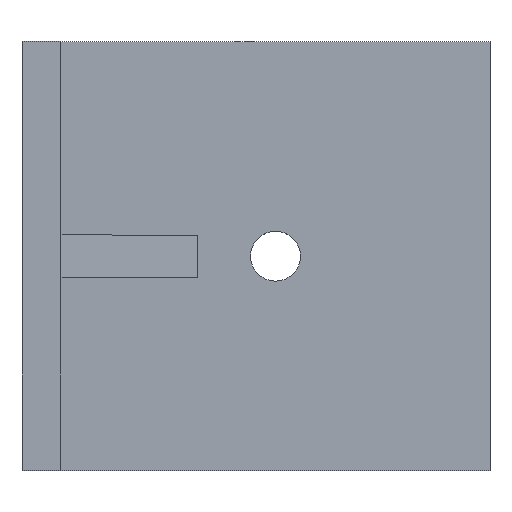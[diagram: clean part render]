
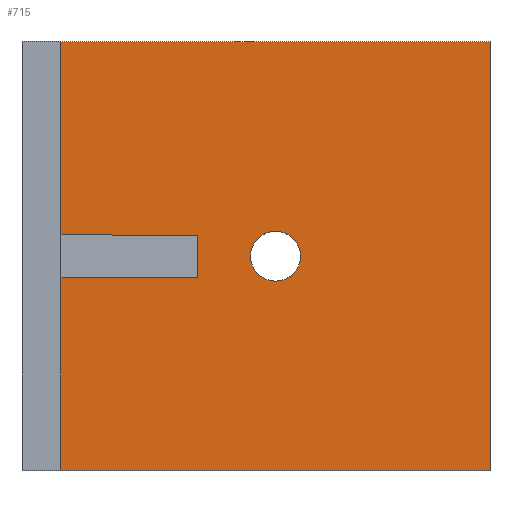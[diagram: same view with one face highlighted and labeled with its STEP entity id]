
A CAD part, top view. The second image highlights one B-rep face of the part: STEP entity #715.
In plain terms, the highlighted planar face has unit normal (0, 0, 1).
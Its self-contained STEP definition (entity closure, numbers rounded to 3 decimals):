
#44 = PLANE('',#45);
#45 = AXIS2_PLACEMENT_3D('',#46,#47,#48);
#46 = CARTESIAN_POINT('',(0.,-27.5,0.));
#47 = DIRECTION('',(0.,1.,0.));
#48 = DIRECTION('',(0.,0.,1.));
#100 = PLANE('',#101);
#101 = AXIS2_PLACEMENT_3D('',#102,#103,#104);
#102 = CARTESIAN_POINT('',(0.,27.5,0.));
#103 = DIRECTION('',(0.,1.,0.));
#104 = DIRECTION('',(0.,0.,1.));
#220 = VERTEX_POINT('',#221);
#221 = CARTESIAN_POINT('',(5.,-27.5,5.));
#235 = PLANE('',#236);
#236 = AXIS2_PLACEMENT_3D('',#237,#238,#239);
#237 = CARTESIAN_POINT('',(5.,-27.5,0.));
#238 = DIRECTION('',(1.,0.,0.));
#239 = DIRECTION('',(0.,0.,1.));
#247 = EDGE_CURVE('',#220,#248,#250,.T.);
#248 = VERTEX_POINT('',#249);
#249 = CARTESIAN_POINT('',(60.,-27.5,5.));
#250 = SURFACE_CURVE('',#251,(#255,#262),.PCURVE_S1.);
#251 = LINE('',#252,#253);
#252 = CARTESIAN_POINT('',(0.,-27.5,5.));
#253 = VECTOR('',#254,1.);
#254 = DIRECTION('',(1.,0.,0.));
#255 = PCURVE('',#44,#256);
#256 = DEFINITIONAL_REPRESENTATION('',(#257),#261);
#257 = LINE('',#258,#259);
#258 = CARTESIAN_POINT('',(5.,0.));
#259 = VECTOR('',#260,1.);
#260 = DIRECTION('',(0.,1.));
#261 = ( GEOMETRIC_REPRESENTATION_CONTEXT(2) 
PARAMETRIC_REPRESENTATION_CONTEXT() REPRESENTATION_CONTEXT('2D SPACE',''
  ) );
#262 = PCURVE('',#263,#268);
#263 = PLANE('',#264);
#264 = AXIS2_PLACEMENT_3D('',#265,#266,#267);
#265 = CARTESIAN_POINT('',(0.,-27.5,5.));
#266 = DIRECTION('',(0.,0.,1.));
#267 = DIRECTION('',(1.,0.,0.));
#268 = DEFINITIONAL_REPRESENTATION('',(#269),#273);
#269 = LINE('',#270,#271);
#270 = CARTESIAN_POINT('',(0.,0.));
#271 = VECTOR('',#272,1.);
#272 = DIRECTION('',(1.,0.));
#273 = ( GEOMETRIC_REPRESENTATION_CONTEXT(2) 
PARAMETRIC_REPRESENTATION_CONTEXT() REPRESENTATION_CONTEXT('2D SPACE',''
  ) );
#289 = PLANE('',#290);
#290 = AXIS2_PLACEMENT_3D('',#291,#292,#293);
#291 = CARTESIAN_POINT('',(60.,-27.5,0.));
#292 = DIRECTION('',(1.,0.,0.));
#293 = DIRECTION('',(0.,0.,1.));
#373 = CYLINDRICAL_SURFACE('',#374,3.2);
#374 = AXIS2_PLACEMENT_3D('',#375,#376,#377);
#375 = CARTESIAN_POINT('',(32.5,0.,5.));
#376 = DIRECTION('',(0.,0.,-1.));
#377 = DIRECTION('',(-1.,0.,0.));
#413 = VERTEX_POINT('',#414);
#414 = CARTESIAN_POINT('',(5.,27.5,5.));
#435 = EDGE_CURVE('',#413,#436,#438,.T.);
#436 = VERTEX_POINT('',#437);
#437 = CARTESIAN_POINT('',(60.,27.5,5.));
#438 = SURFACE_CURVE('',#439,(#443,#450),.PCURVE_S1.);
#439 = LINE('',#440,#441);
#440 = CARTESIAN_POINT('',(0.,27.5,5.));
#441 = VECTOR('',#442,1.);
#442 = DIRECTION('',(1.,0.,0.));
#443 = PCURVE('',#100,#444);
#444 = DEFINITIONAL_REPRESENTATION('',(#445),#449);
#445 = LINE('',#446,#447);
#446 = CARTESIAN_POINT('',(5.,0.));
#447 = VECTOR('',#448,1.);
#448 = DIRECTION('',(0.,1.));
#449 = ( GEOMETRIC_REPRESENTATION_CONTEXT(2) 
PARAMETRIC_REPRESENTATION_CONTEXT() REPRESENTATION_CONTEXT('2D SPACE',''
  ) );
#450 = PCURVE('',#263,#451);
#451 = DEFINITIONAL_REPRESENTATION('',(#452),#456);
#452 = LINE('',#453,#454);
#453 = CARTESIAN_POINT('',(0.,55.));
#454 = VECTOR('',#455,1.);
#455 = DIRECTION('',(1.,0.));
#456 = ( GEOMETRIC_REPRESENTATION_CONTEXT(2) 
PARAMETRIC_REPRESENTATION_CONTEXT() REPRESENTATION_CONTEXT('2D SPACE',''
  ) );
#618 = EDGE_CURVE('',#220,#619,#621,.T.);
#619 = VERTEX_POINT('',#620);
#620 = CARTESIAN_POINT('',(5.,-2.7,5.));
#621 = SURFACE_CURVE('',#622,(#626,#632),.PCURVE_S1.);
#622 = LINE('',#623,#624);
#623 = CARTESIAN_POINT('',(5.,-27.5,5.));
#624 = VECTOR('',#625,1.);
#625 = DIRECTION('',(0.,1.,0.));
#626 = PCURVE('',#235,#627);
#627 = DEFINITIONAL_REPRESENTATION('',(#628),#631);
#628 = B_SPLINE_CURVE_WITH_KNOTS('',1,(#629,#630),.UNSPECIFIED.,.F.,.F.,
  (2,2),(0.,55.),.PIECEWISE_BEZIER_KNOTS.);
#629 = CARTESIAN_POINT('',(5.,0.));
#630 = CARTESIAN_POINT('',(5.,-55.));
#631 = ( GEOMETRIC_REPRESENTATION_CONTEXT(2) 
PARAMETRIC_REPRESENTATION_CONTEXT() REPRESENTATION_CONTEXT('2D SPACE',''
  ) );
#632 = PCURVE('',#263,#633);
#633 = DEFINITIONAL_REPRESENTATION('',(#634),#637);
#634 = B_SPLINE_CURVE_WITH_KNOTS('',1,(#635,#636),.UNSPECIFIED.,.F.,.F.,
  (2,2),(0.,55.),.PIECEWISE_BEZIER_KNOTS.);
#635 = CARTESIAN_POINT('',(5.,0.));
#636 = CARTESIAN_POINT('',(5.,55.));
#637 = ( GEOMETRIC_REPRESENTATION_CONTEXT(2) 
PARAMETRIC_REPRESENTATION_CONTEXT() REPRESENTATION_CONTEXT('2D SPACE',''
  ) );
#653 = PLANE('',#654);
#654 = AXIS2_PLACEMENT_3D('',#655,#656,#657);
#655 = CARTESIAN_POINT('',(11.166,-2.7,11.166));
#656 = DIRECTION('',(-0.,-1.,-0.));
#657 = DIRECTION('',(0.,0.,-1.));
#668 = VERTEX_POINT('',#669);
#669 = CARTESIAN_POINT('',(5.,2.7,5.));
#683 = PLANE('',#684);
#684 = AXIS2_PLACEMENT_3D('',#685,#686,#687);
#685 = CARTESIAN_POINT('',(11.166,2.7,11.166));
#686 = DIRECTION('',(-0.,-1.,-0.));
#687 = DIRECTION('',(0.,0.,-1.));
#695 = EDGE_CURVE('',#668,#413,#696,.T.);
#696 = SURFACE_CURVE('',#697,(#701,#707),.PCURVE_S1.);
#697 = LINE('',#698,#699);
#698 = CARTESIAN_POINT('',(5.,-27.5,5.));
#699 = VECTOR('',#700,1.);
#700 = DIRECTION('',(0.,1.,0.));
#701 = PCURVE('',#235,#702);
#702 = DEFINITIONAL_REPRESENTATION('',(#703),#706);
#703 = B_SPLINE_CURVE_WITH_KNOTS('',1,(#704,#705),.UNSPECIFIED.,.F.,.F.,
  (2,2),(0.,55.),.PIECEWISE_BEZIER_KNOTS.);
#704 = CARTESIAN_POINT('',(5.,0.));
#705 = CARTESIAN_POINT('',(5.,-55.));
#706 = ( GEOMETRIC_REPRESENTATION_CONTEXT(2) 
PARAMETRIC_REPRESENTATION_CONTEXT() REPRESENTATION_CONTEXT('2D SPACE',''
  ) );
#707 = PCURVE('',#263,#708);
#708 = DEFINITIONAL_REPRESENTATION('',(#709),#712);
#709 = B_SPLINE_CURVE_WITH_KNOTS('',1,(#710,#711),.UNSPECIFIED.,.F.,.F.,
  (2,2),(0.,55.),.PIECEWISE_BEZIER_KNOTS.);
#710 = CARTESIAN_POINT('',(5.,0.));
#711 = CARTESIAN_POINT('',(5.,55.));
#712 = ( GEOMETRIC_REPRESENTATION_CONTEXT(2) 
PARAMETRIC_REPRESENTATION_CONTEXT() REPRESENTATION_CONTEXT('2D SPACE',''
  ) );
#715 = ADVANCED_FACE('',(#716,#815),#263,.T.);
#716 = FACE_BOUND('',#717,.T.);
#717 = EDGE_LOOP('',(#718,#719,#720,#743,#771,#792,#793,#794));
#718 = ORIENTED_EDGE('',*,*,#435,.F.);
#719 = ORIENTED_EDGE('',*,*,#695,.F.);
#720 = ORIENTED_EDGE('',*,*,#721,.T.);
#721 = EDGE_CURVE('',#668,#722,#724,.T.);
#722 = VERTEX_POINT('',#723);
#723 = CARTESIAN_POINT('',(22.44,2.7,5.));
#724 = SURFACE_CURVE('',#725,(#729,#736),.PCURVE_S1.);
#725 = LINE('',#726,#727);
#726 = CARTESIAN_POINT('',(5.,2.7,5.));
#727 = VECTOR('',#728,1.);
#728 = DIRECTION('',(1.,0.,0.));
#729 = PCURVE('',#263,#730);
#730 = DEFINITIONAL_REPRESENTATION('',(#731),#735);
#731 = LINE('',#732,#733);
#732 = CARTESIAN_POINT('',(5.,30.2));
#733 = VECTOR('',#734,1.);
#734 = DIRECTION('',(1.,0.));
#735 = ( GEOMETRIC_REPRESENTATION_CONTEXT(2) 
PARAMETRIC_REPRESENTATION_CONTEXT() REPRESENTATION_CONTEXT('2D SPACE',''
  ) );
#736 = PCURVE('',#683,#737);
#737 = DEFINITIONAL_REPRESENTATION('',(#738),#742);
#738 = LINE('',#739,#740);
#739 = CARTESIAN_POINT('',(6.166,-6.166));
#740 = VECTOR('',#741,1.);
#741 = DIRECTION('',(0.,1.));
#742 = ( GEOMETRIC_REPRESENTATION_CONTEXT(2) 
PARAMETRIC_REPRESENTATION_CONTEXT() REPRESENTATION_CONTEXT('2D SPACE',''
  ) );
#743 = ORIENTED_EDGE('',*,*,#744,.F.);
#744 = EDGE_CURVE('',#745,#722,#747,.T.);
#745 = VERTEX_POINT('',#746);
#746 = CARTESIAN_POINT('',(22.44,-2.7,5.));
#747 = SURFACE_CURVE('',#748,(#752,#759),.PCURVE_S1.);
#748 = LINE('',#749,#750);
#749 = CARTESIAN_POINT('',(22.44,-2.7,5.));
#750 = VECTOR('',#751,1.);
#751 = DIRECTION('',(-0.,1.,-0.));
#752 = PCURVE('',#263,#753);
#753 = DEFINITIONAL_REPRESENTATION('',(#754),#758);
#754 = LINE('',#755,#756);
#755 = CARTESIAN_POINT('',(22.44,24.8));
#756 = VECTOR('',#757,1.);
#757 = DIRECTION('',(0.,1.));
#758 = ( GEOMETRIC_REPRESENTATION_CONTEXT(2) 
PARAMETRIC_REPRESENTATION_CONTEXT() REPRESENTATION_CONTEXT('2D SPACE',''
  ) );
#759 = PCURVE('',#760,#765);
#760 = PLANE('',#761);
#761 = AXIS2_PLACEMENT_3D('',#762,#763,#764);
#762 = CARTESIAN_POINT('',(22.44,-2.7,5.));
#763 = DIRECTION('',(0.707,0.,0.707));
#764 = DIRECTION('',(-0.707,0.,0.707));
#765 = DEFINITIONAL_REPRESENTATION('',(#766),#770);
#766 = LINE('',#767,#768);
#767 = CARTESIAN_POINT('',(0.,0.));
#768 = VECTOR('',#769,1.);
#769 = DIRECTION('',(0.,-1.));
#770 = ( GEOMETRIC_REPRESENTATION_CONTEXT(2) 
PARAMETRIC_REPRESENTATION_CONTEXT() REPRESENTATION_CONTEXT('2D SPACE',''
  ) );
#771 = ORIENTED_EDGE('',*,*,#772,.F.);
#772 = EDGE_CURVE('',#619,#745,#773,.T.);
#773 = SURFACE_CURVE('',#774,(#778,#785),.PCURVE_S1.);
#774 = LINE('',#775,#776);
#775 = CARTESIAN_POINT('',(5.,-2.7,5.));
#776 = VECTOR('',#777,1.);
#777 = DIRECTION('',(1.,0.,0.));
#778 = PCURVE('',#263,#779);
#779 = DEFINITIONAL_REPRESENTATION('',(#780),#784);
#780 = LINE('',#781,#782);
#781 = CARTESIAN_POINT('',(5.,24.8));
#782 = VECTOR('',#783,1.);
#783 = DIRECTION('',(1.,0.));
#784 = ( GEOMETRIC_REPRESENTATION_CONTEXT(2) 
PARAMETRIC_REPRESENTATION_CONTEXT() REPRESENTATION_CONTEXT('2D SPACE',''
  ) );
#785 = PCURVE('',#653,#786);
#786 = DEFINITIONAL_REPRESENTATION('',(#787),#791);
#787 = LINE('',#788,#789);
#788 = CARTESIAN_POINT('',(6.166,-6.166));
#789 = VECTOR('',#790,1.);
#790 = DIRECTION('',(0.,1.));
#791 = ( GEOMETRIC_REPRESENTATION_CONTEXT(2) 
PARAMETRIC_REPRESENTATION_CONTEXT() REPRESENTATION_CONTEXT('2D SPACE',''
  ) );
#792 = ORIENTED_EDGE('',*,*,#618,.F.);
#793 = ORIENTED_EDGE('',*,*,#247,.T.);
#794 = ORIENTED_EDGE('',*,*,#795,.T.);
#795 = EDGE_CURVE('',#248,#436,#796,.T.);
#796 = SURFACE_CURVE('',#797,(#801,#808),.PCURVE_S1.);
#797 = LINE('',#798,#799);
#798 = CARTESIAN_POINT('',(60.,-27.5,5.));
#799 = VECTOR('',#800,1.);
#800 = DIRECTION('',(0.,1.,0.));
#801 = PCURVE('',#263,#802);
#802 = DEFINITIONAL_REPRESENTATION('',(#803),#807);
#803 = LINE('',#804,#805);
#804 = CARTESIAN_POINT('',(60.,0.));
#805 = VECTOR('',#806,1.);
#806 = DIRECTION('',(0.,1.));
#807 = ( GEOMETRIC_REPRESENTATION_CONTEXT(2) 
PARAMETRIC_REPRESENTATION_CONTEXT() REPRESENTATION_CONTEXT('2D SPACE',''
  ) );
#808 = PCURVE('',#289,#809);
#809 = DEFINITIONAL_REPRESENTATION('',(#810),#814);
#810 = LINE('',#811,#812);
#811 = CARTESIAN_POINT('',(5.,0.));
#812 = VECTOR('',#813,1.);
#813 = DIRECTION('',(0.,-1.));
#814 = ( GEOMETRIC_REPRESENTATION_CONTEXT(2) 
PARAMETRIC_REPRESENTATION_CONTEXT() REPRESENTATION_CONTEXT('2D SPACE',''
  ) );
#815 = FACE_BOUND('',#816,.T.);
#816 = EDGE_LOOP('',(#817));
#817 = ORIENTED_EDGE('',*,*,#818,.T.);
#818 = EDGE_CURVE('',#819,#819,#821,.T.);
#819 = VERTEX_POINT('',#820);
#820 = CARTESIAN_POINT('',(29.3,0.,5.));
#821 = SURFACE_CURVE('',#822,(#827,#838),.PCURVE_S1.);
#822 = CIRCLE('',#823,3.2);
#823 = AXIS2_PLACEMENT_3D('',#824,#825,#826);
#824 = CARTESIAN_POINT('',(32.5,0.,5.));
#825 = DIRECTION('',(0.,0.,-1.));
#826 = DIRECTION('',(-1.,0.,0.));
#827 = PCURVE('',#263,#828);
#828 = DEFINITIONAL_REPRESENTATION('',(#829),#837);
#829 = ( BOUNDED_CURVE() B_SPLINE_CURVE(2,(#830,#831,#832,#833,#834,#835
,#836),.UNSPECIFIED.,.T.,.F.) B_SPLINE_CURVE_WITH_KNOTS((1,2,2,2,2,1),(
    -2.094,0.,2.094,4.189,6.283,
8.378),.UNSPECIFIED.) CURVE() GEOMETRIC_REPRESENTATION_ITEM() 
RATIONAL_B_SPLINE_CURVE((1.,0.5,1.,0.5,1.,0.5,1.)) REPRESENTATION_ITEM(
  '') );
#830 = CARTESIAN_POINT('',(29.3,27.5));
#831 = CARTESIAN_POINT('',(29.3,33.043));
#832 = CARTESIAN_POINT('',(34.1,30.271));
#833 = CARTESIAN_POINT('',(38.9,27.5));
#834 = CARTESIAN_POINT('',(34.1,24.729));
#835 = CARTESIAN_POINT('',(29.3,21.957));
#836 = CARTESIAN_POINT('',(29.3,27.5));
#837 = ( GEOMETRIC_REPRESENTATION_CONTEXT(2) 
PARAMETRIC_REPRESENTATION_CONTEXT() REPRESENTATION_CONTEXT('2D SPACE',''
  ) );
#838 = PCURVE('',#373,#839);
#839 = DEFINITIONAL_REPRESENTATION('',(#840),#844);
#840 = LINE('',#841,#842);
#841 = CARTESIAN_POINT('',(0.,0.));
#842 = VECTOR('',#843,1.);
#843 = DIRECTION('',(1.,0.));
#844 = ( GEOMETRIC_REPRESENTATION_CONTEXT(2) 
PARAMETRIC_REPRESENTATION_CONTEXT() REPRESENTATION_CONTEXT('2D SPACE',''
  ) );
